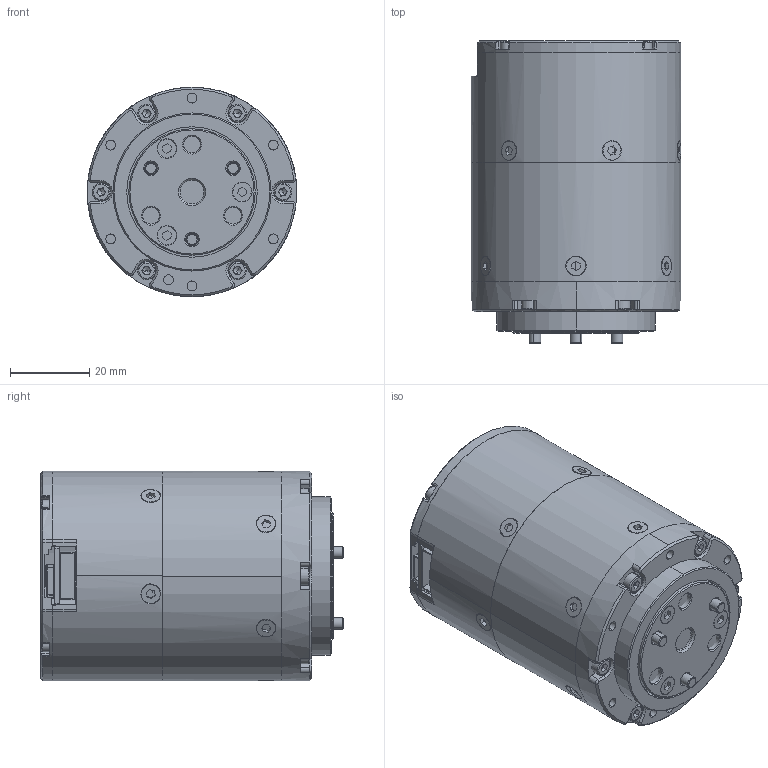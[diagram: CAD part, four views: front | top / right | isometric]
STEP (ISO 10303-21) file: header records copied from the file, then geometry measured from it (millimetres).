
FILE_DESCRIPTION (( 'STEP AP214' ), '1' );
FILE_NAME ('MG4010E-i36B.STEP', '2024-10-09T10:24:51', ( 'zhang_jianheng@outlook.com' ), ( 'HP' ), 'SwSTEP 2.0', 'SolidWorks 2020', '' );
FILE_SCHEMA (( 'AUTOMOTIVE_DESIGN' ));
Length unit declared in the file: millimetre
Products named in the file (1): MG4010E-i36B
Bounding box: 53.04 x 76.5 x 53 mm (x, y, z)
Volume: 142416.7 mm3; surface area: 43041.1 mm2
Topology: 39 solids, 39 shells, 1451 faces, 3645 edges, 2330 vertices
Faces by surface type: plane 620, cylinder 572, cone 155, bspline 92, torus 12
Entity records: 71987 total; most frequent: CARTESIAN_POINT 20633, DIRECTION 7332, ORIENTED_EDGE 7242, EDGE_CURVE 3621, AXIS2_PLACEMENT_3D 2687, VERTEX_POINT 2330, VECTOR 1958, LINE 1958
